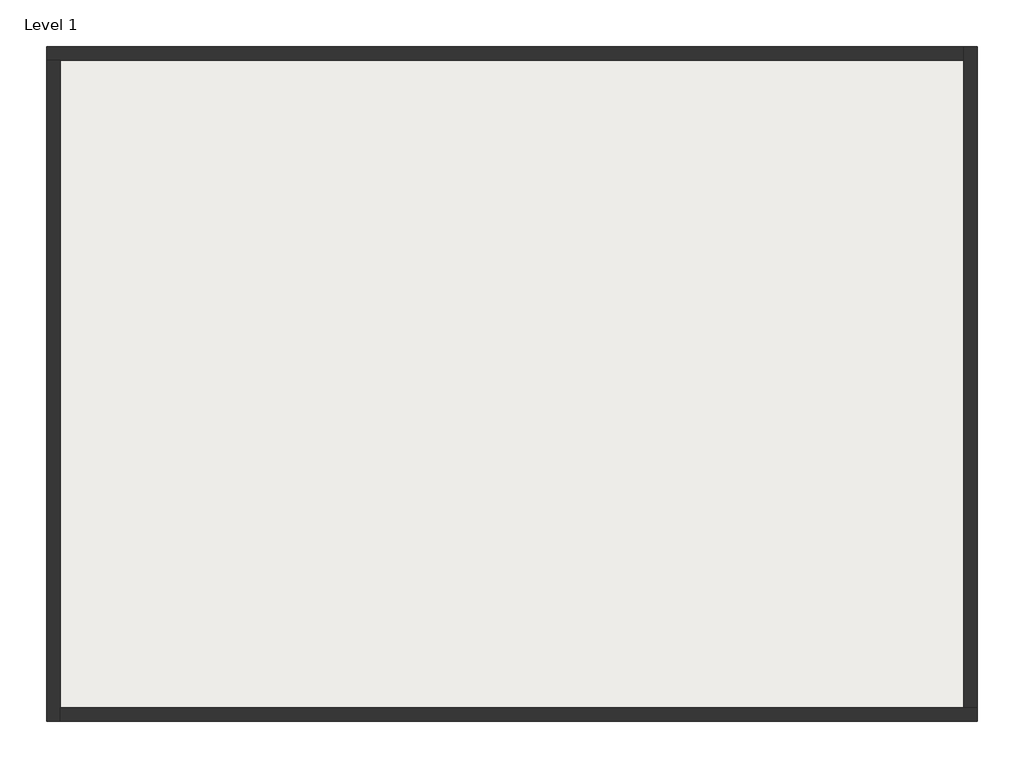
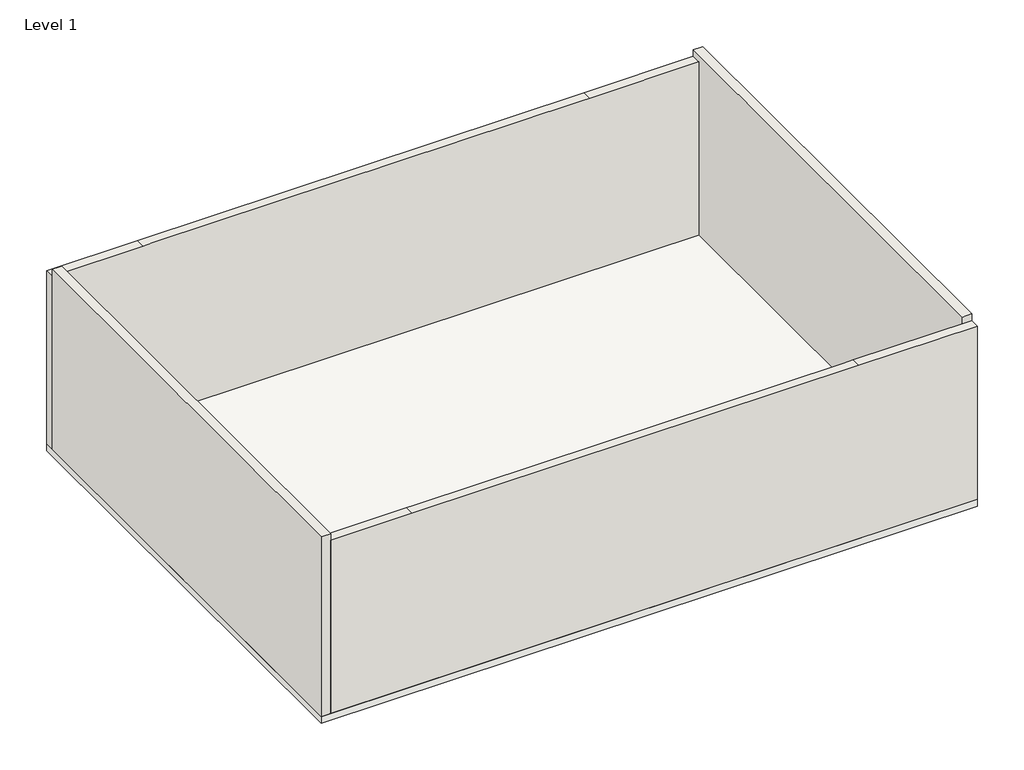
# One storey: 4 walls, 1 slab.
"""IFC4 building model written with IfcOpenShell, lengths in millimetres."""

from ifc_helpers import new_model, si_unit, frame, origin, place, context, project, spatial, polyline, outline, extrude, faceted_brep, element, save

model = new_model("IFC4")

# Units and contexts
model_context = context("Model", 3, world=origin())
ifc_project = project(units=[si_unit("LENGTHUNIT", "METRE", prefix="MILLI")], contexts=[model_context])

# Site, building, storey
site = spatial("IfcSite", under=ifc_project)
building = spatial("IfcBuilding", under=site)
storey = spatial("IfcBuildingStorey", under=building, Name="Level 1", Elevation=0.0)

# Slab
placement = place(None, origin())
element("IfcSlab", 1, ObjectType="Generic 150mm", at=placement, inside=storey, context=model_context, shape_type="SweptSolid", body=[
    extrude(outline(polyline([(7180.5833569, 7807.6658489), (7180.5833569, -2192.3341511), (-6619.4166431, -2192.3341511), (-6619.4166431, 7807.6658489), (7180.5833569, 7807.6658489)])), frame((0.0, 0.0, -150.0), z_axis=(0.0, 0.0, 1.0), x_axis=(1.0, 0.0, 0.0)), (0.0, 0.0, 1.0), 150.0),
])

# Walls
element("IfcWall", 2, ObjectType="Generic - 200mm", at=placement, inside=storey, context=model_context, shape_type="Brep", body=[
    faceted_brep([(-6619.4166431, 7607.6658489, 0.0), (-6419.4166431, 7607.6658489, 0.0), (6980.5833569, 7607.6658489, 0.0), (6980.5833569, 7607.6658489, 3850.0), (4684.0163979, 7607.6658489, 3850.0), (4484.0163979, 7607.6658489, 3850.0), (-4515.9836021, 7607.6658489, 3850.0), (-4715.9836021, 7607.6658489, 3850.0), (-6619.4166431, 7607.6658489, 3850.0), (-6619.4166431, 7807.6658489, 0.0), (-6619.4166431, 7807.6658489, 3850.0), (-4715.9836021, 7807.6658489, 3850.0), (4684.0163979, 7807.6658489, 3850.0), (6980.5833569, 7807.6658489, 3850.0), (6980.5833569, 7807.6658489, 0.0)], [[[0, 1, 2, 3, 4, 5, 6, 7, 8]], [[9, 10, 11, 12, 13, 14]], [[2, 1, 0, 9, 14]], [[0, 8, 10, 9]], [[3, 2, 14, 13]], [[4, 3, 13, 12]], [[8, 7, 11, 10]], [[7, 6, 5, 4, 12, 11]]]),
])
element("IfcWall", 3, ObjectType="Generic - 200mm", at=placement, inside=storey, context=model_context, shape_type="Brep", body=[
    faceted_brep([(-6419.4166431, -2192.3341511, 0.0), (-6419.4166431, -1992.3341511, 0.0), (-6419.4166431, 7607.6658489, 0.0), (-6419.4166431, 7607.6658489, 4000.0), (-6419.4166431, -2192.3341511, 4000.0), (-6419.4166431, -2192.3341511, 3850.0), (-6619.4166431, -2192.3341511, 0.0), (-6619.4166431, -2192.3341511, 4000.0), (-6619.4166431, 7607.6658489, 4000.0), (-6619.4166431, 7607.6658489, 3850.0), (-6619.4166431, 7607.6658489, 0.0)], [[[0, 1, 2, 3, 4, 5]], [[6, 7, 8, 9, 10]], [[2, 1, 0, 6, 10]], [[4, 3, 8, 7]], [[0, 5, 4, 7, 6]], [[3, 2, 10, 9, 8]]]),
])
element("IfcWall", 4, ObjectType="Generic - 200mm", at=placement, inside=storey, context=model_context, shape_type="Brep", body=[
    faceted_brep([(7180.5833569, -1992.3341511, 0.0), (6980.5833569, -1992.3341511, 0.0), (-6419.4166431, -1992.3341511, 0.0), (-6419.4166431, -1992.3341511, 3850.0), (-4715.9836021, -1992.3341511, 3850.0), (-4515.9836021, -1992.3341511, 3850.0), (4484.0163979, -1992.3341511, 3850.0), (4684.0163979, -1992.3341511, 3850.0), (7180.5833569, -1992.3341511, 3850.0), (7180.5833569, -2192.3341511, 0.0), (7180.5833569, -2192.3341511, 3850.0), (4684.0163979, -2192.3341511, 3850.0), (-4715.9836021, -2192.3341511, 3850.0), (-6419.4166431, -2192.3341511, 3850.0), (-6419.4166431, -2192.3341511, 0.0)], [[[0, 1, 2, 3, 4, 5, 6, 7, 8]], [[9, 10, 11, 12, 13, 14]], [[2, 1, 0, 9, 14]], [[0, 8, 10, 9]], [[3, 2, 14, 13]], [[8, 7, 11, 10]], [[4, 3, 13, 12]], [[7, 6, 5, 4, 12, 11]]]),
])
element("IfcWall", 5, ObjectType="Generic - 200mm", at=placement, inside=storey, context=model_context, shape_type="Brep", body=[
    faceted_brep([(6980.5833569, 7807.6658489, 0.0), (6980.5833569, 7607.6658489, 0.0), (6980.5833569, -1992.3341511, 0.0), (6980.5833569, -1992.3341511, 4000.0), (6980.5833569, 7807.6658489, 4000.0), (6980.5833569, 7807.6658489, 3850.0), (7180.5833569, 7807.6658489, 0.0), (7180.5833569, 7807.6658489, 4000.0), (7180.5833569, -1992.3341511, 4000.0), (7180.5833569, -1992.3341511, 3850.0), (7180.5833569, -1992.3341511, 0.0)], [[[0, 1, 2, 3, 4, 5]], [[6, 7, 8, 9, 10]], [[2, 1, 0, 6, 10]], [[4, 3, 8, 7]], [[0, 5, 4, 7, 6]], [[3, 2, 10, 9, 8]]]),
])

save(model, "model.ifc")
